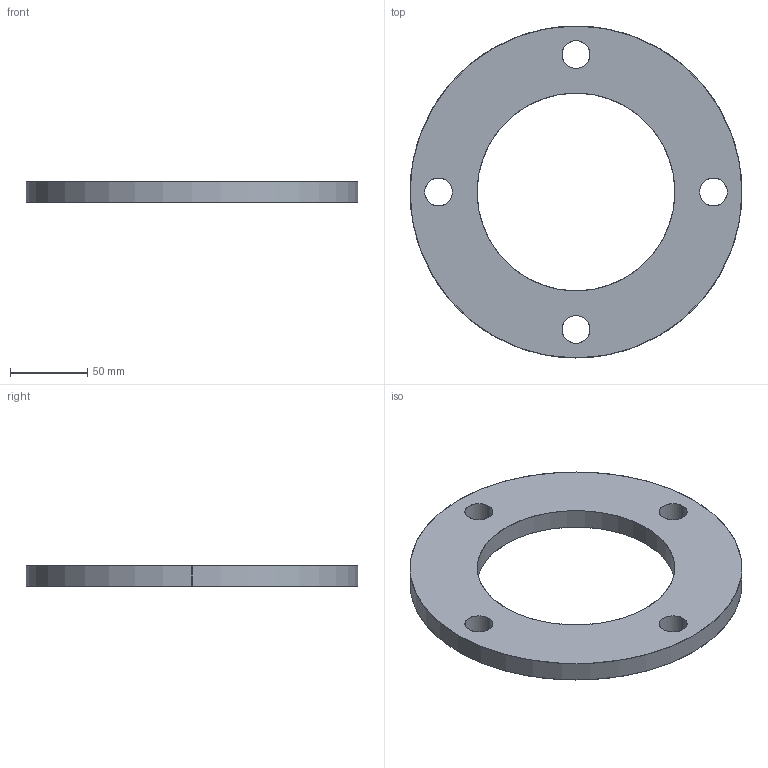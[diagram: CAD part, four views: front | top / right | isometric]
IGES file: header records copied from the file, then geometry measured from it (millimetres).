
Start section: SolidWorks IGES file using analytic representation for surfaces
Global section: file name: \\DOWNSHIFT.fusion-group.net\FR$\hwegrzynska\Desktop\Fusion Plast Australia- drawings\backing rings\AS4087 PN16 - Figure B7 Galvanised Backing Rings\BRD110GPN16.IGS; native system: SolidWorks 2019; preprocessor: SolidWorks 2019; author: hwegrzynska; date: 210514.121130; units: millimetre
Bounding box: 215 x 215 x 13 mm (x, y, z)
Surface area: 61787.3 mm2 (no closed solid volume)
Topology: 0 solids, 0 shells, 14 faces, 560 edges, 560 vertices
Faces by surface type: revolution 12, bspline 2
